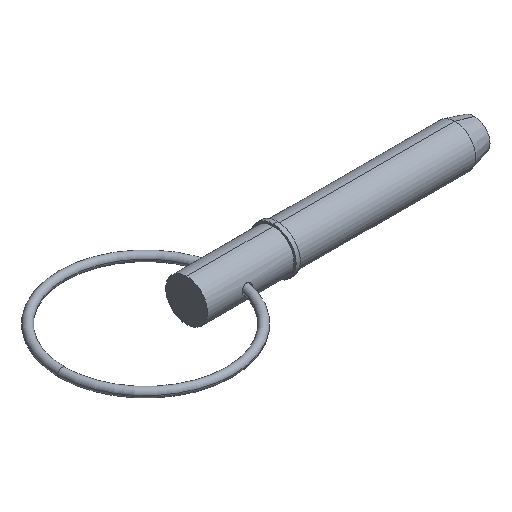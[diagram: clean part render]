
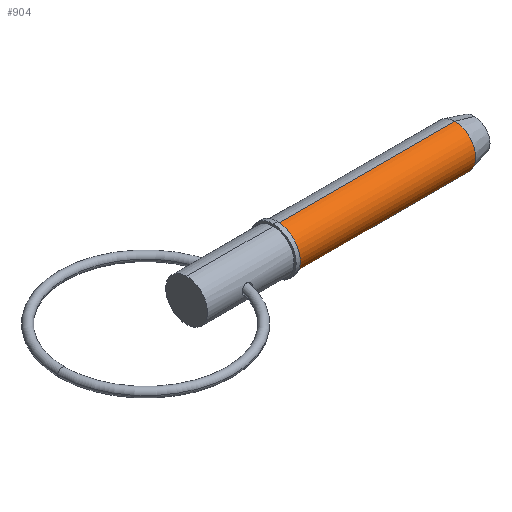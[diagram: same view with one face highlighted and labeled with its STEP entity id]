
A CAD part, isometric view. The second image highlights one B-rep face of the part: STEP entity #904.
In plain terms, the highlighted cylindrical face has radius 5.555 mm (diameter 11.11 mm), a partial arc.
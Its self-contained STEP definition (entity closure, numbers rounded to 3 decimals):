
#42 = VERTEX_POINT ( 'NONE', #1000 ) ;
#69 = ORIENTED_EDGE ( 'NONE', *, *, #953, .T. ) ;
#71 = AXIS2_PLACEMENT_3D ( 'NONE', #744, #514, #749 ) ;
#81 = LINE ( 'NONE', #232, #211 ) ;
#85 = DIRECTION ( 'NONE',  ( 1., 0., 0. ) ) ;
#92 = CARTESIAN_POINT ( 'NONE',  ( 71.317, 0., 5.555 ) ) ;
#118 = CYLINDRICAL_SURFACE ( 'NONE', #71, 5.555 ) ;
#140 = DIRECTION ( 'NONE',  ( 1., 0., 0. ) ) ;
#145 = ORIENTED_EDGE ( 'NONE', *, *, #784, .F. ) ;
#148 = VECTOR ( 'NONE', #260, 1000. ) ;
#153 = CARTESIAN_POINT ( 'NONE',  ( 71.317, 0., 0. ) ) ;
#211 = VECTOR ( 'NONE', #85, 1000. ) ;
#224 = ORIENTED_EDGE ( 'NONE', *, *, #890, .F. ) ;
#229 = VERTEX_POINT ( 'NONE', #745 ) ;
#232 = CARTESIAN_POINT ( 'NONE',  ( 0., 0., 5.555 ) ) ;
#260 = DIRECTION ( 'NONE',  ( 1., 0., 0. ) ) ;
#422 = FACE_OUTER_BOUND ( 'NONE', #689, .T. ) ;
#471 = CIRCLE ( 'NONE', #777, 5.555 ) ;
#478 = DIRECTION ( 'NONE',  ( 1., 0., 0. ) ) ;
#514 = DIRECTION ( 'NONE',  ( 1., 0., 0. ) ) ;
#599 = CARTESIAN_POINT ( 'NONE',  ( 0., 0., -5.555 ) ) ;
#627 = EDGE_CURVE ( 'NONE', #229, #42, #759, .T. ) ;
#675 = LINE ( 'NONE', #599, #148 ) ;
#689 = EDGE_LOOP ( 'NONE', ( #145, #924, #69, #224 ) ) ;
#744 = CARTESIAN_POINT ( 'NONE',  ( 0., 0., 0. ) ) ;
#745 = CARTESIAN_POINT ( 'NONE',  ( 24.13, 0., 5.555 ) ) ;
#749 = DIRECTION ( 'NONE',  ( 0., 0., -1. ) ) ;
#759 = CIRCLE ( 'NONE', #884, 5.555 ) ;
#777 = AXIS2_PLACEMENT_3D ( 'NONE', #153, #478, #913 ) ;
#784 = EDGE_CURVE ( 'NONE', #229, #865, #81, .T. ) ;
#862 = CARTESIAN_POINT ( 'NONE',  ( 24.13, 0., 0. ) ) ;
#865 = VERTEX_POINT ( 'NONE', #92 ) ;
#884 = AXIS2_PLACEMENT_3D ( 'NONE', #862, #140, #938 ) ;
#890 = EDGE_CURVE ( 'NONE', #865, #1014, #471, .T. ) ;
#904 = ADVANCED_FACE ( 'NONE', ( #422 ), #118, .T. ) ;
#913 = DIRECTION ( 'NONE',  ( 0., 0., -1. ) ) ;
#924 = ORIENTED_EDGE ( 'NONE', *, *, #627, .T. ) ;
#938 = DIRECTION ( 'NONE',  ( 0., 0., -1. ) ) ;
#953 = EDGE_CURVE ( 'NONE', #42, #1014, #675, .T. ) ;
#997 = CARTESIAN_POINT ( 'NONE',  ( 71.317, 0., -5.555 ) ) ;
#1000 = CARTESIAN_POINT ( 'NONE',  ( 24.13, 0., -5.555 ) ) ;
#1014 = VERTEX_POINT ( 'NONE', #997 ) ;
